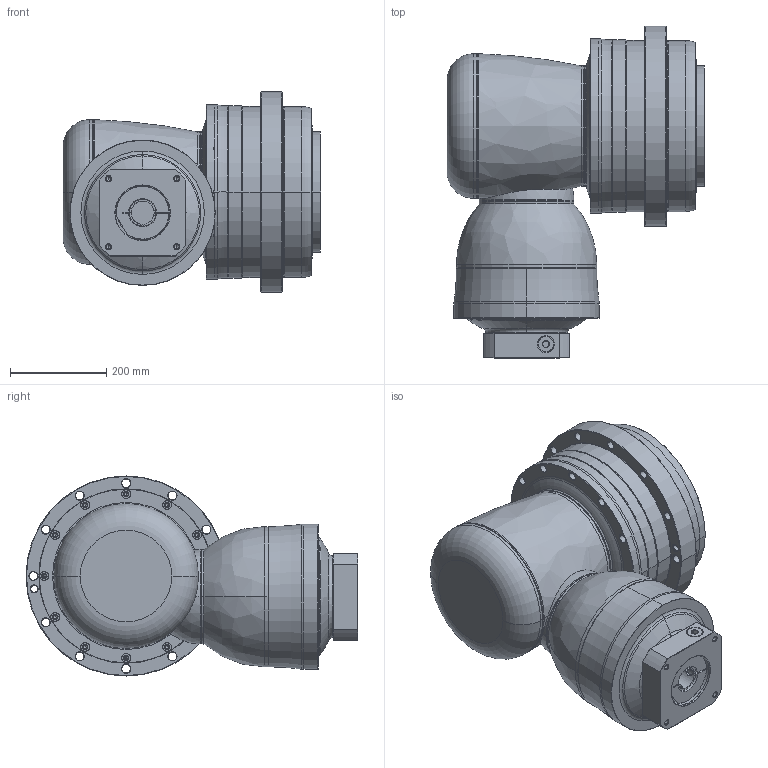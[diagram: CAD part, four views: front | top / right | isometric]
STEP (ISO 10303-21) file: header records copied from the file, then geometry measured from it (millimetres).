
FILE_DESCRIPTION((''),'2;1');
FILE_NAME('AHKB355_3ST_48-P0409B00101_ASM','2016-12-09T',('d01943'),(''),'PRO/ENGINEER BY PARAMETRIC TECHNOLOGY CORPORATION, 2008410','PRO/ENGINEER BY PARAMETRIC TECHNOLOGY CORPORATION, 2008410','');
FILE_SCHEMA(('CONFIG_CONTROL_DESIGN'));
Length unit declared in the file: millimetre
Products named in the file (12): P1008800002; P1831100001; P0276100003; P0357100003; P1315800001; P1007800001; P1317800301; P0409B00101; P0503B00016; P0912703001; 21711426021; AHKB355_3ST_48-P0409B00101_ASM
Assembly tree (11 placements, depth 2):
  AHKB355_3ST_48-P0409B00101_ASM
    P1008800002
    P1831100001
    P0276100003
    P0357100003
    P1315800001
    P1007800001
    P1317800301
    P0409B00101
    P0503B00016
    P0912703001
    21711426021
Bounding box: 535 x 688.5 x 415 mm (x, y, z)
Volume: 44856966.3 mm3; surface area: 2488111.8 mm2
Topology: 12 solids, 12 shells, 1055 faces, 2346 edges, 1342 vertices
Faces by surface type: cylinder 381, cone 374, torus 142, plane 130, bspline 26, sphere 2
Entity records: 34408 total; most frequent: CARTESIAN_POINT 10394, DIRECTION 5574, ORIENTED_EDGE 4516, AXIS2_PLACEMENT_3D 2376, EDGE_CURVE 2258, VERTEX_POINT 1342, CIRCLE 1324, EDGE_LOOP 1270
